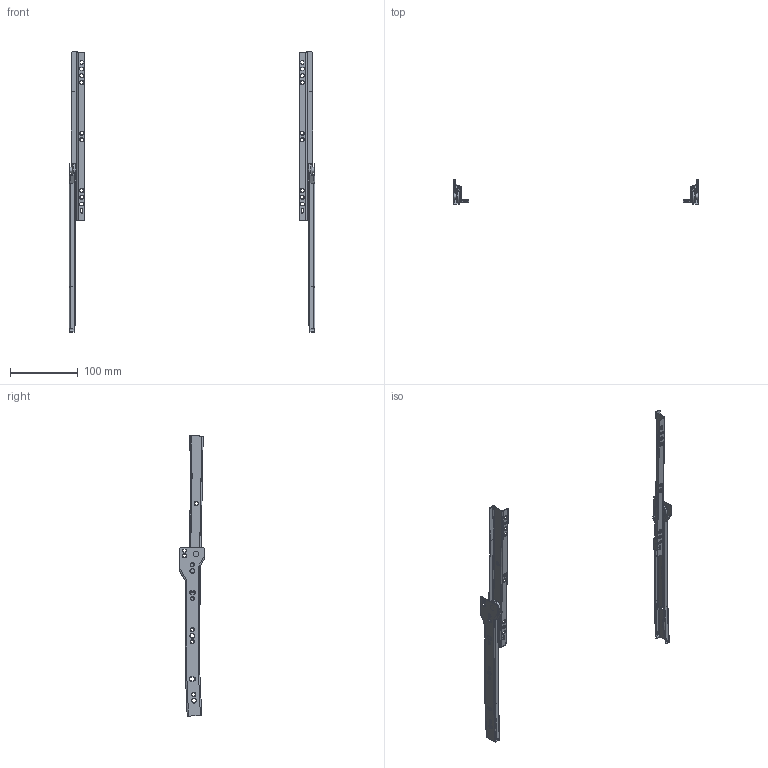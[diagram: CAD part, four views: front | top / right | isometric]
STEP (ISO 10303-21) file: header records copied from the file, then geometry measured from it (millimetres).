
FILE_DESCRIPTION(/* description */ (''),/* implementation_level */ '2;1');
FILE_NAME(/* name */ 'D:\$Workingspace\Designs\Katalog\Cadsoft\GTV Prowadnice\Prowadnice GTV_bryły 3D\PR-0B-250-10_wysunieta.stp',/* time_stamp */ '2016-11-22T15:14:34+01:00',/* author */ ('tomaszw'),/* organization */ (''),/* preprocessor_version */ 'ST-DEVELOPER v16.1',/* originating_system */ 'Autodesk Inventor 2016',/* authorisation */ '');
FILE_SCHEMA (('AUTOMOTIVE_DESIGN { 1 0 10303 214 3 1 1 }'));
Length unit declared in the file: millimetre
Products named in the file (5): PR-0B-250-10_CL; PR-0B-250-10_CR; PR-0B-250-10_DL; PR-0B-250-10_DR; PR-0B
Assembly tree (4 placements, depth 2):
  PR-0B
    PR-0B-250-10_CL
    PR-0B-250-10_CR
    PR-0B-250-10_DL
    PR-0B-250-10_DR
Bounding box: 364 x 36 x 415 mm (x, y, z)
Volume: 38374.4 mm3; surface area: 77710.8 mm2
Topology: 4 solids, 4 shells, 408 faces, 1020 edges, 632 vertices
Faces by surface type: cylinder 176, plane 154, cone 42, torus 28, sphere 8
Full cylindrical faces by diameter (mm): 5 x6, 5.2 x14, 5.4 x8, 6.2 x6, 7 x4, 8 x4, 18.5 x4
Entity records: 12472 total; most frequent: DIRECTION 2156, CARTESIAN_POINT 2133, ORIENTED_EDGE 1848, EDGE_CURVE 924, AXIS2_PLACEMENT_3D 823, VERTEX_POINT 624, EDGE_LOOP 604, LINE 510
